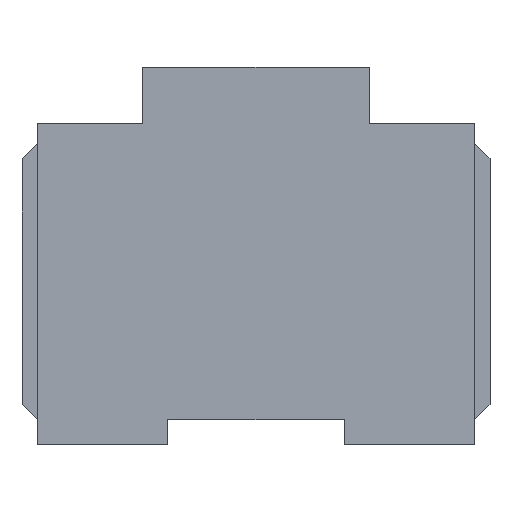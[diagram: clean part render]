
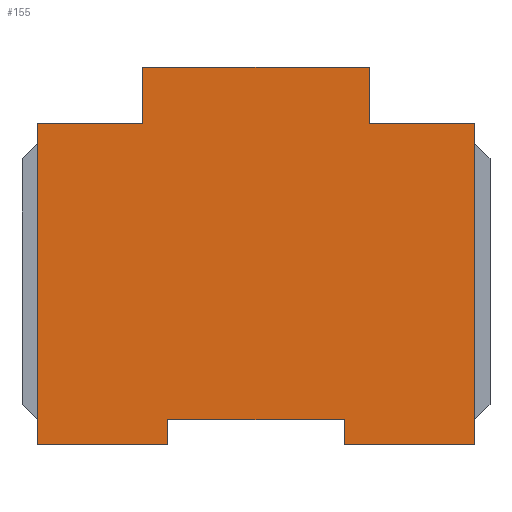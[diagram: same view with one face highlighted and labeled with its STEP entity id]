
A CAD part, left-side view. The second image highlights one B-rep face of the part: STEP entity #155.
In plain terms, the highlighted planar face has unit normal (-1, 0, 0).
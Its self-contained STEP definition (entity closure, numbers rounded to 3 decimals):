
#155=ADVANCED_FACE('',(#318),#319,.T.);
#318=FACE_OUTER_BOUND('',#456,.T.);
#319=PLANE('',#457);
#456=EDGE_LOOP('',(#916,#917,#918,#919,#920,#921,#922,#923,#924,#925,#926,#927));
#457=AXIS2_PLACEMENT_3D('',#928,#929,#930);
#916=ORIENTED_EDGE('',*,*,#1092,.F.);
#917=ORIENTED_EDGE('',*,*,#1118,.F.);
#918=ORIENTED_EDGE('',*,*,#1028,.F.);
#919=ORIENTED_EDGE('',*,*,#1116,.F.);
#920=ORIENTED_EDGE('',*,*,#1113,.F.);
#921=ORIENTED_EDGE('',*,*,#1110,.F.);
#922=ORIENTED_EDGE('',*,*,#1107,.F.);
#923=ORIENTED_EDGE('',*,*,#1104,.F.);
#924=ORIENTED_EDGE('',*,*,#1060,.F.);
#925=ORIENTED_EDGE('',*,*,#1102,.F.);
#926=ORIENTED_EDGE('',*,*,#1099,.F.);
#927=ORIENTED_EDGE('',*,*,#1096,.F.);
#928=CARTESIAN_POINT('',(-13.4,0.,30.568));
#929=DIRECTION('',(-1.0,0.0,0.));
#930=DIRECTION('',(0.,0.0,1.0));
#1028=EDGE_CURVE('',#1236,#1237,#1238,.T.);
#1060=EDGE_CURVE('',#1295,#1296,#1297,.T.);
#1092=EDGE_CURVE('',#1344,#1345,#1346,.T.);
#1096=EDGE_CURVE('',#1345,#1352,#1353,.T.);
#1099=EDGE_CURVE('',#1352,#1357,#1358,.T.);
#1102=EDGE_CURVE('',#1357,#1295,#1362,.T.);
#1104=EDGE_CURVE('',#1296,#1364,#1365,.T.);
#1107=EDGE_CURVE('',#1364,#1369,#1370,.T.);
#1110=EDGE_CURVE('',#1369,#1374,#1375,.T.);
#1113=EDGE_CURVE('',#1374,#1379,#1380,.T.);
#1116=EDGE_CURVE('',#1379,#1236,#1384,.T.);
#1118=EDGE_CURVE('',#1237,#1344,#1386,.T.);
#1236=VERTEX_POINT('',#1520);
#1237=VERTEX_POINT('',#1521);
#1238=LINE('',#1522,#1523);
#1295=VERTEX_POINT('',#1611);
#1296=VERTEX_POINT('',#1612);
#1297=LINE('',#1613,#1614);
#1344=VERTEX_POINT('',#1692);
#1345=VERTEX_POINT('',#1693);
#1346=LINE('',#1694,#1695);
#1352=VERTEX_POINT('',#1704);
#1353=LINE('',#1705,#1706);
#1357=VERTEX_POINT('',#1712);
#1358=LINE('',#1713,#1714);
#1362=LINE('',#1720,#1721);
#1364=VERTEX_POINT('',#1724);
#1365=LINE('',#1725,#1726);
#1369=VERTEX_POINT('',#1732);
#1370=LINE('',#1733,#1734);
#1374=VERTEX_POINT('',#1740);
#1375=LINE('',#1741,#1742);
#1379=VERTEX_POINT('',#1748);
#1380=LINE('',#1749,#1750);
#1384=LINE('',#1756,#1757);
#1386=LINE('',#1760,#1761);
#1520=CARTESIAN_POINT('',(-13.4,-43.5,58.8));
#1521=CARTESIAN_POINT('',(-13.4,-43.5,-5.0));
#1522=CARTESIAN_POINT('',(-13.4,-43.5,-5.0));
#1523=VECTOR('',#1832,1.0);
#1611=CARTESIAN_POINT('',(-13.4,43.5,-5.0));
#1612=CARTESIAN_POINT('',(-13.4,43.5,58.8));
#1613=CARTESIAN_POINT('',(-13.4,43.5,-5.0));
#1614=VECTOR('',#1864,1.0);
#1692=CARTESIAN_POINT('',(-13.4,-17.5,-5.0));
#1693=CARTESIAN_POINT('',(-13.4,-17.5,0.));
#1694=CARTESIAN_POINT('',(-13.4,-17.5,-5.0));
#1695=VECTOR('',#1896,1.0);
#1704=CARTESIAN_POINT('',(-13.4,17.5,0.));
#1705=CARTESIAN_POINT('',(-13.4,-17.5,0.));
#1706=VECTOR('',#1900,1.0);
#1712=CARTESIAN_POINT('',(-13.4,17.5,-5.0));
#1713=CARTESIAN_POINT('',(-13.4,17.5,-5.0));
#1714=VECTOR('',#1903,1.0);
#1720=CARTESIAN_POINT('',(-13.4,17.5,-5.0));
#1721=VECTOR('',#1906,1.0);
#1724=CARTESIAN_POINT('',(-13.4,22.5,58.8));
#1725=CARTESIAN_POINT('',(-13.4,22.5,58.8));
#1726=VECTOR('',#1908,1.0);
#1732=CARTESIAN_POINT('',(-13.4,22.5,70.0));
#1733=CARTESIAN_POINT('',(-13.4,22.5,58.8));
#1734=VECTOR('',#1911,1.0);
#1740=CARTESIAN_POINT('',(-13.4,-22.5,70.0));
#1741=CARTESIAN_POINT('',(-13.4,-22.5,70.0));
#1742=VECTOR('',#1914,1.0);
#1748=CARTESIAN_POINT('',(-13.4,-22.5,58.8));
#1749=CARTESIAN_POINT('',(-13.4,-22.5,58.8));
#1750=VECTOR('',#1917,1.0);
#1756=CARTESIAN_POINT('',(-13.4,-43.5,58.8));
#1757=VECTOR('',#1920,1.0);
#1760=CARTESIAN_POINT('',(-13.4,-43.5,-5.0));
#1761=VECTOR('',#1922,1.0);
#1832=DIRECTION('',(0.,0.,-1.0));
#1864=DIRECTION('',(0.,0.0,1.0));
#1896=DIRECTION('',(0.,0.0,1.0));
#1900=DIRECTION('',(0.,1.0,0.));
#1903=DIRECTION('',(0.,-0.0,-1.0));
#1906=DIRECTION('',(0.0,1.0,0.0));
#1908=DIRECTION('',(0.0,-1.0,-0.0));
#1911=DIRECTION('',(0.,0.,1.0));
#1914=DIRECTION('',(0.0,-1.0,-0.0));
#1917=DIRECTION('',(0.,-0.0,-1.0));
#1920=DIRECTION('',(0.0,-1.0,-0.0));
#1922=DIRECTION('',(0.,1.0,0.));
